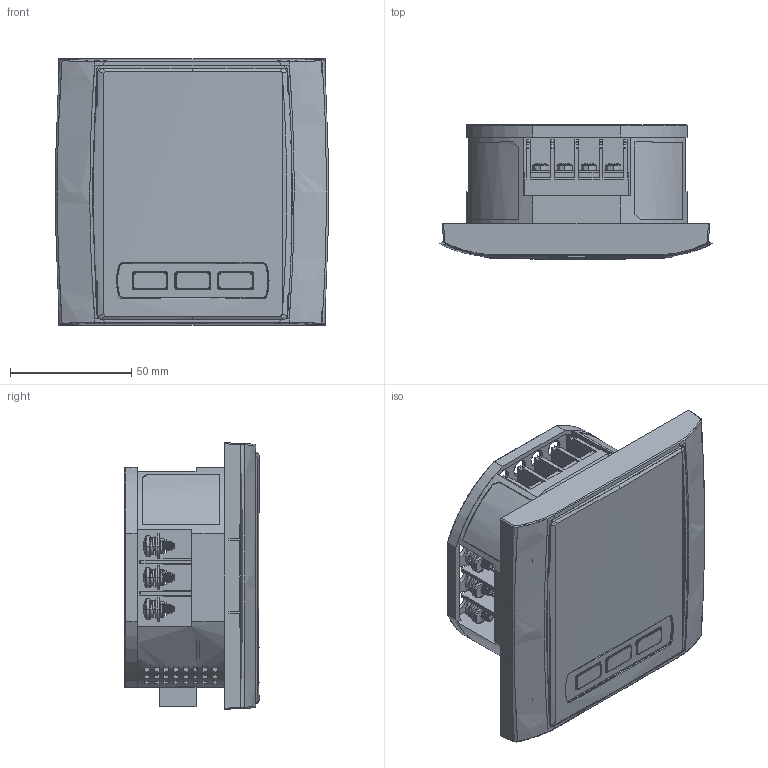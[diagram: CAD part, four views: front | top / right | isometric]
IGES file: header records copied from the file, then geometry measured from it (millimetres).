
Global section: file name: \\10.10.10.21\; native system: Rhinoceros ( Aug 10 2015 ); preprocessor: Trout Lake IGES 012 Aug 10 2015; date: 160708.002731; units: millimetre
Bounding box: 112.2 x 55.5 x 110 mm (x, y, z)
Surface area: 171101.4 mm2 (no closed solid volume)
Topology: 0 solids, 0 shells, 4862 faces, 42556 edges, 42550 vertices
Faces by surface type: bspline 4862
